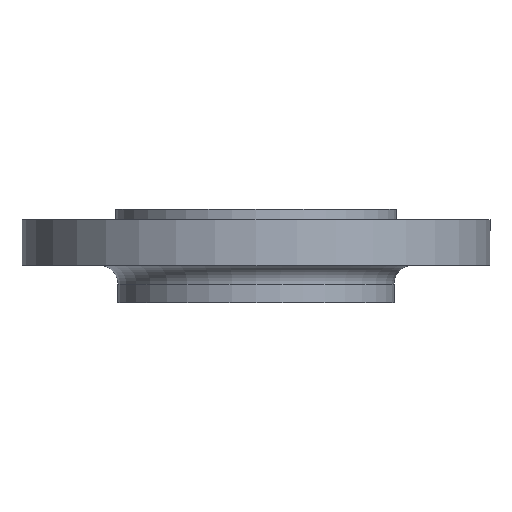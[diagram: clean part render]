
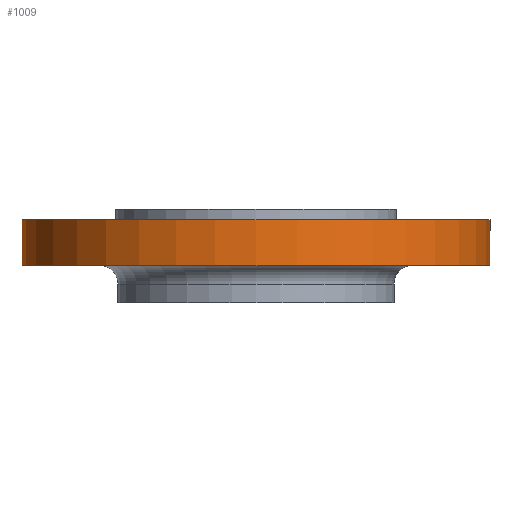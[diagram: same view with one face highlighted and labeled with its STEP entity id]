
A CAD part, front view. The second image highlights one B-rep face of the part: STEP entity #1009.
In plain terms, the highlighted cylindrical face has radius 100 mm (diameter 200 mm), a partial arc.
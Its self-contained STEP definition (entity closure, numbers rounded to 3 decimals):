
#49 = EDGE_CURVE ( 'NONE', #962, #1027, #835, .T. ) ;
#57 = CARTESIAN_POINT ( 'NONE',  ( -100., 0., -4.5 ) ) ;
#76 = CARTESIAN_POINT ( 'NONE',  ( 100., 0., -4.5 ) ) ;
#77 = DIRECTION ( 'NONE',  ( 1., 0., 0. ) ) ;
#78 = DIRECTION ( 'NONE',  ( 0., 0., 1. ) ) ;
#79 = CARTESIAN_POINT ( 'NONE',  ( 0., 0., -68. ) ) ;
#80 = CYLINDRICAL_SURFACE ( 'NONE', #649, 100. ) ;
#81 = FACE_OUTER_BOUND ( 'NONE', #978, .T. ) ;
#103 = CARTESIAN_POINT ( 'NONE',  ( 100., 0., -24. ) ) ;
#142 = CARTESIAN_POINT ( 'NONE',  ( -100., 0., -24. ) ) ;
#170 = DIRECTION ( 'NONE',  ( 1., 0., 0. ) ) ;
#171 = DIRECTION ( 'NONE',  ( 0., 0., 1. ) ) ;
#172 = CARTESIAN_POINT ( 'NONE',  ( 0., 0., -24. ) ) ;
#194 = EDGE_CURVE ( 'NONE', #1027, #1091, #837, .T. ) ;
#240 = VECTOR ( 'NONE', #372, 1000. ) ;
#259 = VECTOR ( 'NONE', #839, 1000. ) ;
#332 = CIRCLE ( 'NONE', #341, 100. ) ;
#341 = AXIS2_PLACEMENT_3D ( 'NONE', #172, #171, #170 ) ;
#348 = AXIS2_PLACEMENT_3D ( 'NONE', #650, #609, #644 ) ;
#372 = DIRECTION ( 'NONE',  ( 0., 0., 1. ) ) ;
#373 = CARTESIAN_POINT ( 'NONE',  ( -100., 0., -68. ) ) ;
#375 = LINE ( 'NONE', #373, #240 ) ;
#609 = DIRECTION ( 'NONE',  ( 0., 0., -1. ) ) ;
#644 = DIRECTION ( 'NONE',  ( -1., 0., 0. ) ) ;
#649 = AXIS2_PLACEMENT_3D ( 'NONE', #79, #78, #77 ) ;
#650 = CARTESIAN_POINT ( 'NONE',  ( 0., 0., -4.5 ) ) ;
#671 = EDGE_CURVE ( 'NONE', #926, #1091, #375, .T. ) ;
#835 = LINE ( 'NONE', #838, #259 ) ;
#837 = CIRCLE ( 'NONE', #348, 100. ) ;
#838 = CARTESIAN_POINT ( 'NONE',  ( 100., 0., -68. ) ) ;
#839 = DIRECTION ( 'NONE',  ( 0., 0., 1. ) ) ;
#910 = EDGE_CURVE ( 'NONE', #926, #962, #332, .T. ) ;
#926 = VERTEX_POINT ( 'NONE', #142 ) ;
#962 = VERTEX_POINT ( 'NONE', #103 ) ;
#978 = EDGE_LOOP ( 'NONE', ( #1050, #1051, #1052, #1053 ) ) ;
#1009 = ADVANCED_FACE ( 'NONE', ( #81 ), #80, .T. ) ;
#1027 = VERTEX_POINT ( 'NONE', #76 ) ;
#1050 = ORIENTED_EDGE ( 'NONE', *, *, #671, .F. ) ;
#1051 = ORIENTED_EDGE ( 'NONE', *, *, #910, .T. ) ;
#1052 = ORIENTED_EDGE ( 'NONE', *, *, #49, .T. ) ;
#1053 = ORIENTED_EDGE ( 'NONE', *, *, #194, .T. ) ;
#1091 = VERTEX_POINT ( 'NONE', #57 ) ;
